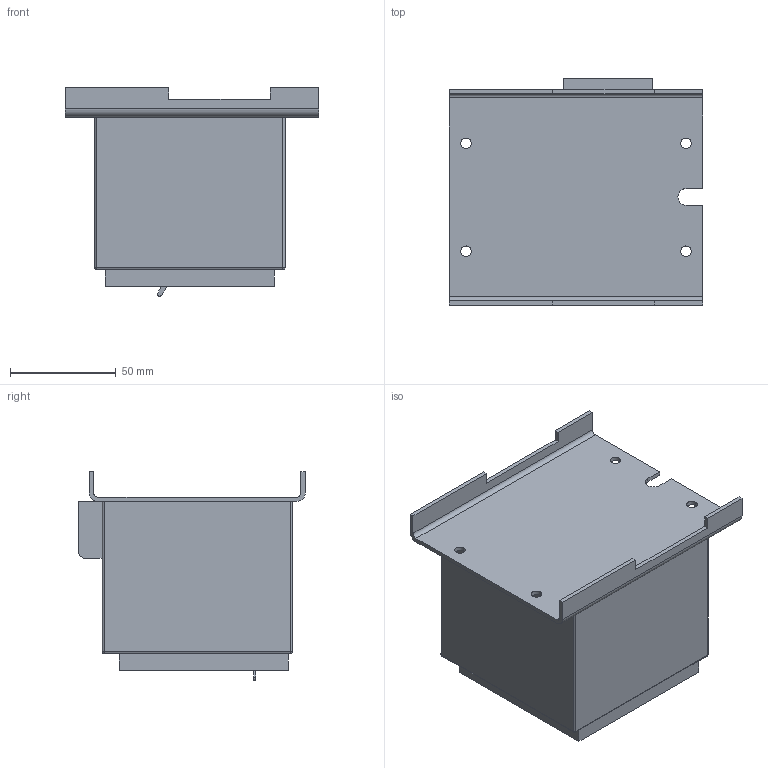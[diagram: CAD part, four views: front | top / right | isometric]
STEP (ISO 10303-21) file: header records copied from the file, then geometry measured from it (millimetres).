
FILE_DESCRIPTION (( 'STEP AP214' ), '1' );
FILE_NAME ('Ýëåêòðîïðèâîä CD-99 250À.STEP', '2018-06-21T07:12:54', ( '' ), ( '' ), 'SwSTEP 2.0', 'SolidWorks 2017', '' );
FILE_SCHEMA (( 'AUTOMOTIVE_DESIGN' ));
Length unit declared in the file: millimetre
Products named in the file (1): Ýëåêòðîïðèâîä CD-99 250À
Bounding box: 120 x 107 x 98.6 mm (x, y, z)
Volume: 666471.4 mm3; surface area: 61442.8 mm2
Topology: 1 solids, 1 shells, 288 faces, 786 edges, 515 vertices
Faces by surface type: plane 196, cylinder 59, torus 15, bspline 14, sphere 4
Entity records: 9674 total; most frequent: CARTESIAN_POINT 2358, ORIENTED_EDGE 1564, DIRECTION 1418, EDGE_CURVE 782, LINE 556, VECTOR 556, VERTEX_POINT 515, AXIS2_PLACEMENT_3D 431
